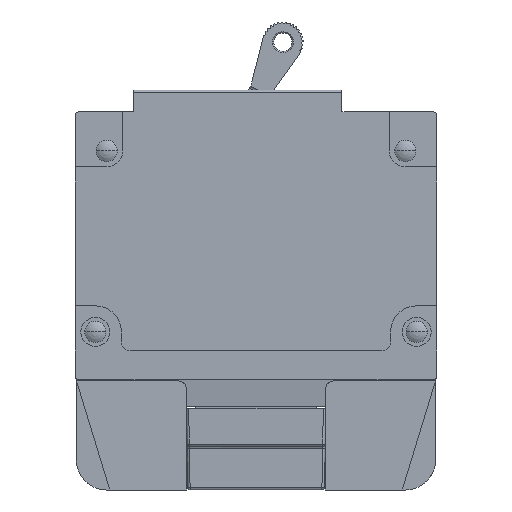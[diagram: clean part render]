
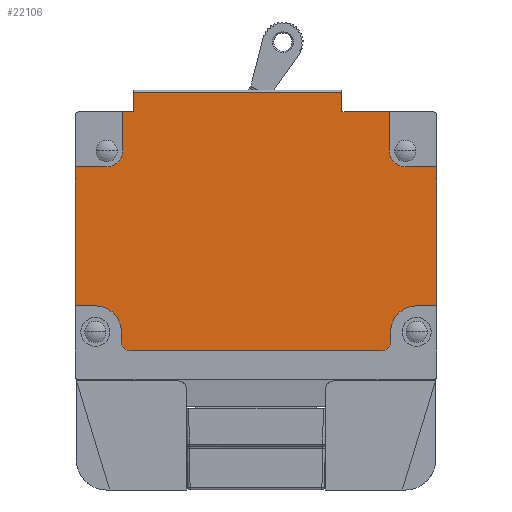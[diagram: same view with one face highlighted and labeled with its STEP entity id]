
A CAD part, left-side view. The second image highlights one B-rep face of the part: STEP entity #22106.
In plain terms, the highlighted planar face has unit normal (-1, 0, 0).
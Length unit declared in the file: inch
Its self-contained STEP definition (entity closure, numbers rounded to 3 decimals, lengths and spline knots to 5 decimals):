
#128=DIRECTION('',(0.,0.,1.));
#129=VECTOR('',#128,0.96);
#130=CARTESIAN_POINT('',(-0.375,0.,-1.07));
#131=LINE('',#130,#129);
#250=DIRECTION('',(0.,0.,1.));
#251=VECTOR('',#250,0.135);
#252=CARTESIAN_POINT('',(-0.375,0.656,0.27));
#253=LINE('',#252,#251);
#4082=DIRECTION('',(0.,1.,0.));
#4083=VECTOR('',#4082,0.327);
#4084=CARTESIAN_POINT('',(-0.375,0.329,0.27));
#4085=LINE('',#4084,#4083);
#4116=DIRECTION('',(0.,-1.,0.));
#4117=VECTOR('',#4116,1.438);
#4118=CARTESIAN_POINT('',(-0.375,2.094,0.405));
#4119=LINE('',#4118,#4117);
#4120=DIRECTION('',(0.,0.,-1.));
#4121=VECTOR('',#4120,0.27);
#4122=CARTESIAN_POINT('',(-0.375,0.329,0.27));
#4123=LINE('',#4122,#4121);
#4124=CARTESIAN_POINT('',(-0.375,0.219,0.));
#4125=DIRECTION('',(1.,0.,0.));
#4126=DIRECTION('',(0.,0.,-1.));
#4127=AXIS2_PLACEMENT_3D('',#4124,#4125,#4126);
#4129=DIRECTION('',(0.,1.,0.));
#4130=VECTOR('',#4129,0.219);
#4131=CARTESIAN_POINT('',(-0.375,0.,-0.11));
#4132=LINE('',#4131,#4130);
#4133=DIRECTION('',(0.,1.,0.));
#4134=VECTOR('',#4133,0.14);
#4135=CARTESIAN_POINT('',(-0.375,0.,-1.07));
#4136=LINE('',#4135,#4134);
#4137=CARTESIAN_POINT('',(-0.375,0.14,-1.25));
#4138=DIRECTION('',(1.,0.,0.));
#4139=DIRECTION('',(0.,1.,0.));
#4140=AXIS2_PLACEMENT_3D('',#4137,#4138,#4139);
#4142=DIRECTION('',(0.,0.,1.));
#4143=VECTOR('',#4142,0.068);
#4144=CARTESIAN_POINT('',(-0.375,0.32,-1.318));
#4145=LINE('',#4144,#4143);
#4146=CARTESIAN_POINT('',(-0.375,0.382,-1.318));
#4147=DIRECTION('',(1.,0.,0.));
#4148=DIRECTION('',(0.,-1.,0.));
#4149=AXIS2_PLACEMENT_3D('',#4146,#4147,#4148);
#4151=DIRECTION('',(0.,-1.,0.));
#4152=VECTOR('',#4151,1.736);
#4153=CARTESIAN_POINT('',(-0.375,2.118,-1.38));
#4154=LINE('',#4153,#4152);
#4155=CARTESIAN_POINT('',(-0.375,2.118,-1.318));
#4156=DIRECTION('',(1.,0.,0.));
#4157=DIRECTION('',(0.,0.,-1.));
#4158=AXIS2_PLACEMENT_3D('',#4155,#4156,#4157);
#4160=DIRECTION('',(0.,0.,-1.));
#4161=VECTOR('',#4160,0.068);
#4162=CARTESIAN_POINT('',(-0.375,2.18,-1.25));
#4163=LINE('',#4162,#4161);
#4164=CARTESIAN_POINT('',(-0.375,2.36,-1.25));
#4165=DIRECTION('',(1.,0.,0.));
#4166=DIRECTION('',(0.,0.,1.));
#4167=AXIS2_PLACEMENT_3D('',#4164,#4165,#4166);
#4169=DIRECTION('',(0.,-1.,0.));
#4170=VECTOR('',#4169,0.14);
#4171=CARTESIAN_POINT('',(-0.375,2.5,-1.07));
#4172=LINE('',#4171,#4170);
#4173=DIRECTION('',(0.,-1.,0.));
#4174=VECTOR('',#4173,0.219);
#4175=CARTESIAN_POINT('',(-0.375,2.5,-0.11));
#4176=LINE('',#4175,#4174);
#4177=CARTESIAN_POINT('',(-0.375,2.281,0.));
#4178=DIRECTION('',(1.,0.,0.));
#4179=DIRECTION('',(0.,-1.,0.));
#4180=AXIS2_PLACEMENT_3D('',#4177,#4178,#4179);
#4182=DIRECTION('',(0.,0.,-1.));
#4183=VECTOR('',#4182,0.27);
#4184=CARTESIAN_POINT('',(-0.375,2.171,0.27));
#4185=LINE('',#4184,#4183);
#4186=DIRECTION('',(0.,0.,1.));
#4187=VECTOR('',#4186,0.135);
#4188=CARTESIAN_POINT('',(-0.375,2.094,0.27));
#4189=LINE('',#4188,#4187);
#4614=DIRECTION('',(0.,0.,1.));
#4615=VECTOR('',#4614,0.96);
#4616=CARTESIAN_POINT('',(-0.375,2.5,-1.07));
#4617=LINE('',#4616,#4615);
#4702=DIRECTION('',(0.,1.,0.));
#4703=VECTOR('',#4702,0.077);
#4704=CARTESIAN_POINT('',(-0.375,2.094,0.27));
#4705=LINE('',#4704,#4703);
#11694=CARTESIAN_POINT('',(-0.375,0.14,-1.07));
#11695=VERTEX_POINT('',#11694);
#11696=CARTESIAN_POINT('',(-0.375,2.36,-1.07));
#11697=VERTEX_POINT('',#11696);
#11698=CARTESIAN_POINT('',(-0.375,2.18,-1.25));
#11699=VERTEX_POINT('',#11698);
#11700=CARTESIAN_POINT('',(-0.375,2.18,-1.318));
#11701=VERTEX_POINT('',#11700);
#11702=CARTESIAN_POINT('',(-0.375,2.118,-1.38));
#11703=VERTEX_POINT('',#11702);
#11704=CARTESIAN_POINT('',(-0.375,0.382,-1.38));
#11705=VERTEX_POINT('',#11704);
#11706=CARTESIAN_POINT('',(-0.375,0.32,-1.318));
#11707=VERTEX_POINT('',#11706);
#11708=CARTESIAN_POINT('',(-0.375,0.32,-1.25));
#11709=VERTEX_POINT('',#11708);
#11726=CARTESIAN_POINT('',(-0.375,2.281,-0.11));
#11727=VERTEX_POINT('',#11726);
#11728=CARTESIAN_POINT('',(-0.375,2.171,0.));
#11729=VERTEX_POINT('',#11728);
#11730=CARTESIAN_POINT('',(-0.375,0.329,0.));
#11731=VERTEX_POINT('',#11730);
#11732=CARTESIAN_POINT('',(-0.375,0.219,-0.11));
#11733=VERTEX_POINT('',#11732);
#11750=CARTESIAN_POINT('',(-0.375,0.,-1.07));
#11751=VERTEX_POINT('',#11750);
#11752=CARTESIAN_POINT('',(-0.375,2.5,-1.07));
#11753=VERTEX_POINT('',#11752);
#11754=CARTESIAN_POINT('',(-0.375,0.,-0.11));
#11755=VERTEX_POINT('',#11754);
#11756=CARTESIAN_POINT('',(-0.375,2.5,-0.11));
#11757=VERTEX_POINT('',#11756);
#11758=CARTESIAN_POINT('',(-0.375,2.171,0.27));
#11759=VERTEX_POINT('',#11758);
#11760=CARTESIAN_POINT('',(-0.375,0.329,0.27));
#11761=VERTEX_POINT('',#11760);
#12196=CARTESIAN_POINT('',(-0.375,0.656,0.27));
#12198=VERTEX_POINT('',#12196);
#12200=CARTESIAN_POINT('',(-0.375,2.094,0.27));
#12202=VERTEX_POINT('',#12200);
#12253=CARTESIAN_POINT('',(-0.375,0.656,0.405));
#12255=VERTEX_POINT('',#12253);
#12256=CARTESIAN_POINT('',(-0.375,2.094,0.405));
#12257=VERTEX_POINT('',#12256);
#22063=CARTESIAN_POINT('',(-0.375,0.,-1.58));
#22064=DIRECTION('',(-1.,0.,0.));
#22065=DIRECTION('',(0.,0.,1.));
#22066=AXIS2_PLACEMENT_3D('',#22063,#22064,#22065);
#22067=PLANE('',#22066);
#22068=ORIENTED_EDGE('',*,*,#14852,.T.);
#22069=ORIENTED_EDGE('',*,*,#14879,.F.);
#22070=ORIENTED_EDGE('',*,*,#21978,.F.);
#22071=ORIENTED_EDGE('',*,*,#22009,.T.);
#22072=ORIENTED_EDGE('',*,*,#22031,.F.);
#22073=ORIENTED_EDGE('',*,*,#22050,.F.);
#22074=ORIENTED_EDGE('',*,*,#14685,.F.);
#22076=ORIENTED_EDGE('',*,*,#22075,.T.);
#22078=ORIENTED_EDGE('',*,*,#22077,.F.);
#22080=ORIENTED_EDGE('',*,*,#22079,.F.);
#22082=ORIENTED_EDGE('',*,*,#22081,.T.);
#22084=ORIENTED_EDGE('',*,*,#22083,.F.);
#22086=ORIENTED_EDGE('',*,*,#22085,.T.);
#22088=ORIENTED_EDGE('',*,*,#22087,.F.);
#22090=ORIENTED_EDGE('',*,*,#22089,.F.);
#22092=ORIENTED_EDGE('',*,*,#22091,.F.);
#22094=ORIENTED_EDGE('',*,*,#22093,.T.);
#22096=ORIENTED_EDGE('',*,*,#22095,.T.);
#22098=ORIENTED_EDGE('',*,*,#22097,.F.);
#22100=ORIENTED_EDGE('',*,*,#22099,.F.);
#22102=ORIENTED_EDGE('',*,*,#22101,.F.);
#22103=ORIENTED_EDGE('',*,*,#14827,.T.);
#22104=EDGE_LOOP('',(#22068,#22069,#22070,#22071,#22072,#22073,#22074,#22076,
#22078,#22080,#22082,#22084,#22086,#22088,#22090,#22092,#22094,#22096,#22098,
#22100,#22102,#22103));
#22105=FACE_OUTER_BOUND('',#22104,.F.);
#4128=CIRCLE('',#4127,0.11);
#4141=CIRCLE('',#4140,0.18);
#4150=CIRCLE('',#4149,0.062);
#4159=CIRCLE('',#4158,0.062);
#4168=CIRCLE('',#4167,0.18);
#4181=CIRCLE('',#4180,0.11);
#14685=EDGE_CURVE('',#11751,#11755,#131,.T.);
#14827=EDGE_CURVE('',#12202,#12257,#4189,.T.);
#14852=EDGE_CURVE('',#12257,#12255,#4119,.T.);
#14879=EDGE_CURVE('',#12198,#12255,#253,.T.);
#21978=EDGE_CURVE('',#11761,#12198,#4085,.T.);
#22009=EDGE_CURVE('',#11761,#11731,#4123,.T.);
#22031=EDGE_CURVE('',#11733,#11731,#4128,.T.);
#22050=EDGE_CURVE('',#11755,#11733,#4132,.T.);
#22075=EDGE_CURVE('',#11751,#11695,#4136,.T.);
#22077=EDGE_CURVE('',#11709,#11695,#4141,.T.);
#22079=EDGE_CURVE('',#11707,#11709,#4145,.T.);
#22081=EDGE_CURVE('',#11707,#11705,#4150,.T.);
#22083=EDGE_CURVE('',#11703,#11705,#4154,.T.);
#22085=EDGE_CURVE('',#11703,#11701,#4159,.T.);
#22087=EDGE_CURVE('',#11699,#11701,#4163,.T.);
#22089=EDGE_CURVE('',#11697,#11699,#4168,.T.);
#22091=EDGE_CURVE('',#11753,#11697,#4172,.T.);
#22093=EDGE_CURVE('',#11753,#11757,#4617,.T.);
#22095=EDGE_CURVE('',#11757,#11727,#4176,.T.);
#22097=EDGE_CURVE('',#11729,#11727,#4181,.T.);
#22099=EDGE_CURVE('',#11759,#11729,#4185,.T.);
#22101=EDGE_CURVE('',#12202,#11759,#4705,.T.);
#22106=ADVANCED_FACE('',(#22105),#22067,.T.);
